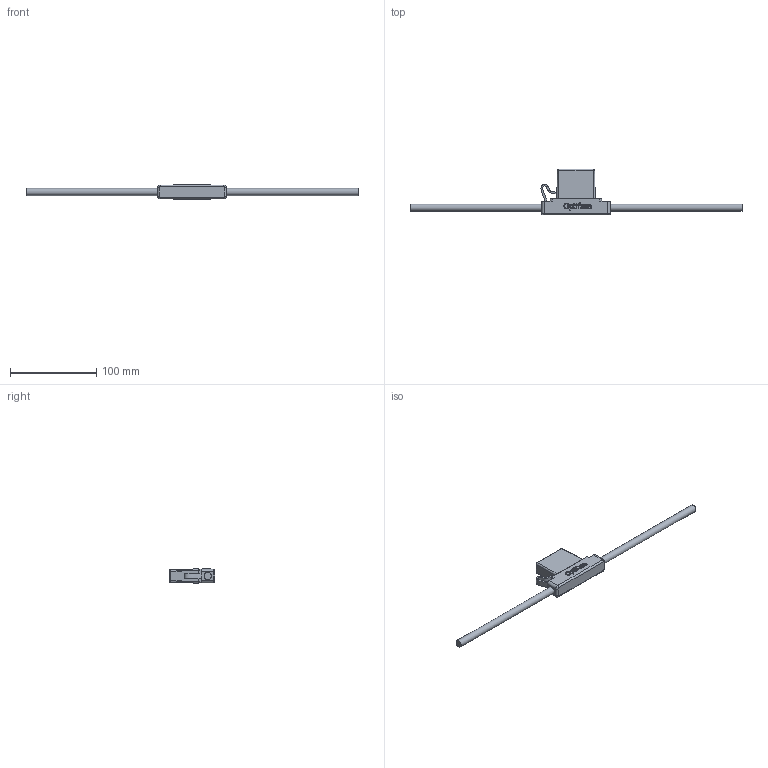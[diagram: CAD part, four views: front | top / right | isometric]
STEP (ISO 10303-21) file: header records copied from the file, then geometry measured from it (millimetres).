
FILE_DESCRIPTION(/* description */ (''),/* implementation_level */ '2;1');
FILE_NAME(/* name */ 'LPX-01.stp',/* time_stamp */ '2025-01-30T10:39:44-08:00',/* author */ ('tylerl'),/* organization */ (''),/* preprocessor_version */ 'ST-DEVELOPER v20',/* originating_system */ 'Autodesk Inventor 2025',/* authorisation */ '');
FILE_SCHEMA (('AUTOMOTIVE_DESIGN { 1 0 10303 214 3 1 1 }'));
Length unit declared in the file: inch
Products named in the file (1): LPX-01
Bounding box: 384.3 x 53.11 x 16.51 mm (x, y, z)
Volume: 46766.5 mm3; surface area: 23013.9 mm2
Topology: 1 solids, 1 shells, 204 faces, 548 edges, 356 vertices
Faces by surface type: plane 99, bspline 73, cylinder 28, sphere 4
Full cylindrical faces by diameter (mm): 8.331 x2
Entity records: 7292 total; most frequent: CARTESIAN_POINT 2542, ORIENTED_EDGE 1096, DIRECTION 738, EDGE_CURVE 548, VERTEX_POINT 356, LINE 342, VECTOR 342, EDGE_LOOP 222
